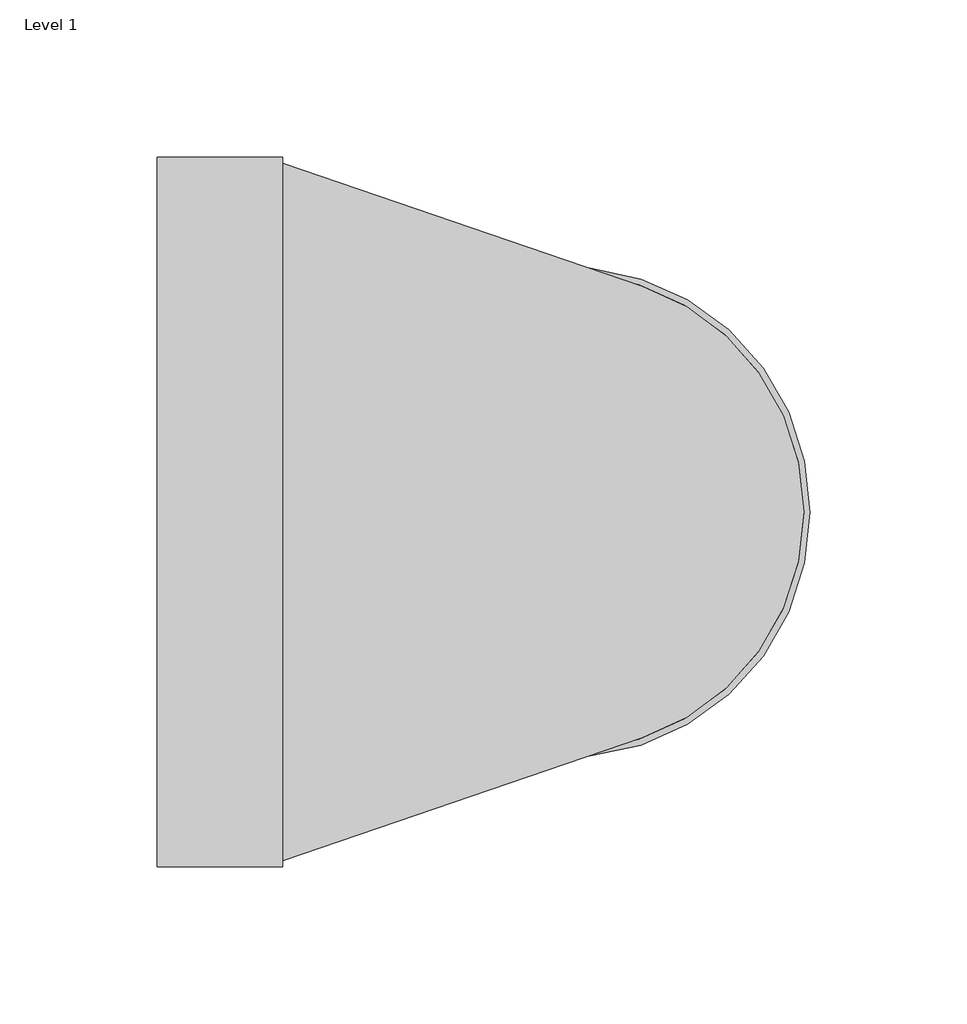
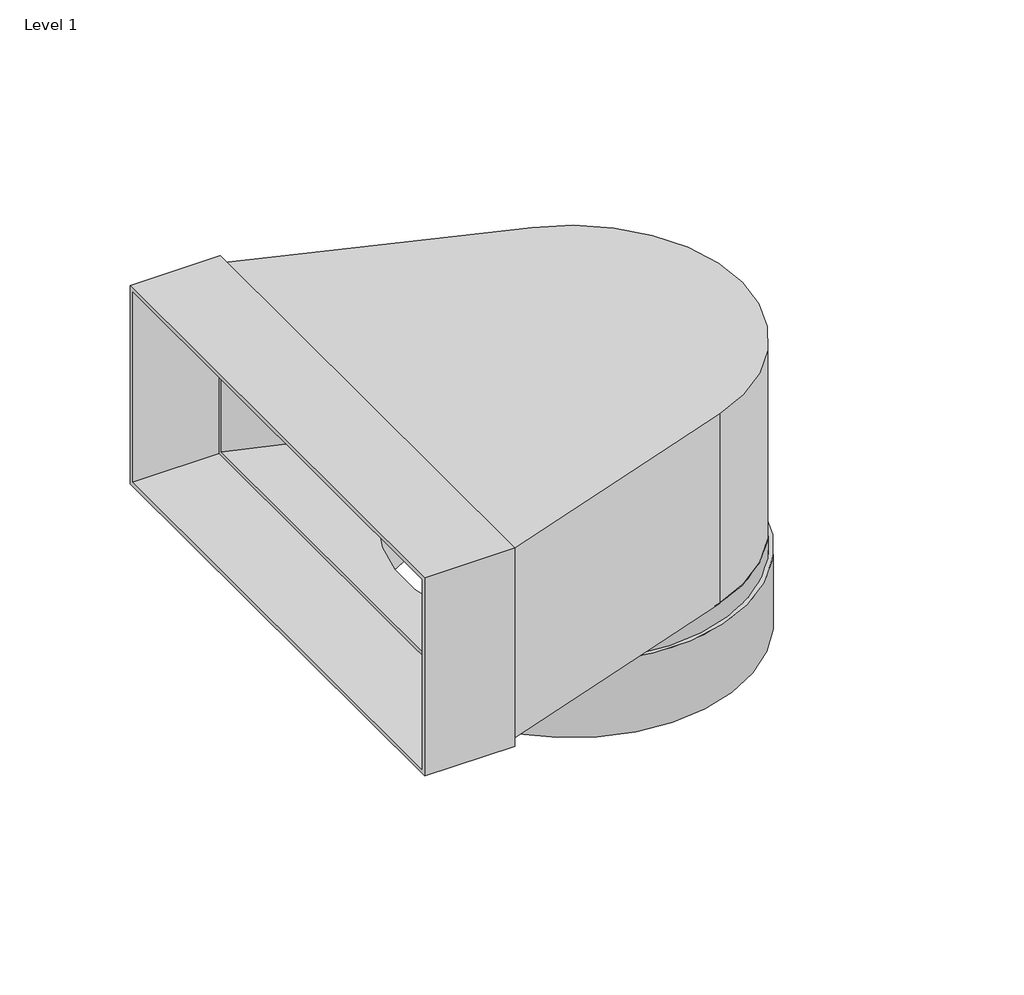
# One storey: 1 proxy.
"""IFC4 building model written with IfcOpenShell, lengths in millimetres."""

from ifc_helpers import new_model, si_unit, origin, place, context, project, spatial, transform, mapped, element, save
from components import specialty_equipment_80599a69

model = new_model("IFC4")

# Units and contexts
model_context = context("Model", 3, world=origin())
ifc_project = project(units=[si_unit("LENGTHUNIT", "METRE", prefix="MILLI")], contexts=[model_context])

# Site, building, storey
site = spatial("IfcSite", under=ifc_project)
building = spatial("IfcBuilding", under=site)
storey = spatial("IfcBuildingStorey", under=building, Name="Level 1", Elevation=0.0)

# Proxy
placement = place(None, origin())
specialty_equipment_shape = specialty_equipment_80599a69(model_context)
element("IfcBuildingElementProxy", 1, Name="11590720_D_DFK-AK90 : 28996417_D_11590720_DFK-AK90", ObjectType="11590720_D_DFK-AK90 : 28996417_D_11590720_DFK-AK90", at=placement, inside=storey, context=model_context, shape_type="MappedRepresentation", body=[
    mapped(specialty_equipment_shape, transform((0.0, 0.0, 0.0), x_axis=(1.0, 0.0, 0.0), y_axis=(0.0, 1.0, 0.0), z_axis=(0.0, 0.0, 1.0))),
])

save(model, "model.ifc")
